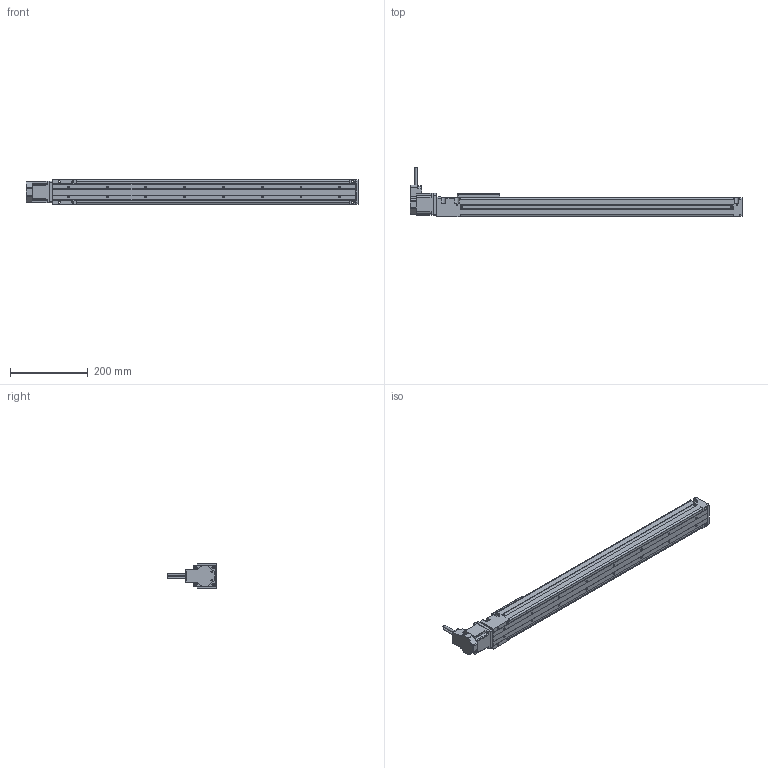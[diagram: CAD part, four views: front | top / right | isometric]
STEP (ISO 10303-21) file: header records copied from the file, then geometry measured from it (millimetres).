
FILE_DESCRIPTION(/* description */ ('Alibre Inc.'),/* implementation_level */ '2;1');
FILE_NAME(/* name */ 'export0',/* time_stamp */ '2010-04-01T10:50:20-04:00',/* author */ (''),/* organization */ (''),/* preprocessor_version */ 'ST-DEVELOPER v10',/* originating_system */ 'Alibre',/* authorisation */ '');
FILE_SCHEMA (('CONFIG_CONTROL_DESIGN'));
Length unit declared in the file: centimetre
Products named in the file (6): 1; 2; ID_1; ID_2; ID_3
Bounding box: 856 x 127.68 x 64 mm (x, y, z)
Volume: 866796.6 mm3; surface area: 433878 mm2
Topology: 4 solids, 4 shells, 858 faces, 2244 edges, 1402 vertices
Faces by surface type: plane 492, cylinder 224, cone 110, torus 28, sphere 4
Full cylindrical faces by diameter (mm): 3.5 x2, 4.5 x4, 5.5 x1, 6.5 x1, 8 x1, 38.13 x1, 38.15 x1
Entity records: 26228 total; most frequent: CARTESIAN_POINT 4748, ORIENTED_EDGE 4420, DIRECTION 3988, EDGE_CURVE 2210, VECTOR 1570, LINE 1570, AXIS2_PLACEMENT_3D 1465, VERTEX_POINT 1395
